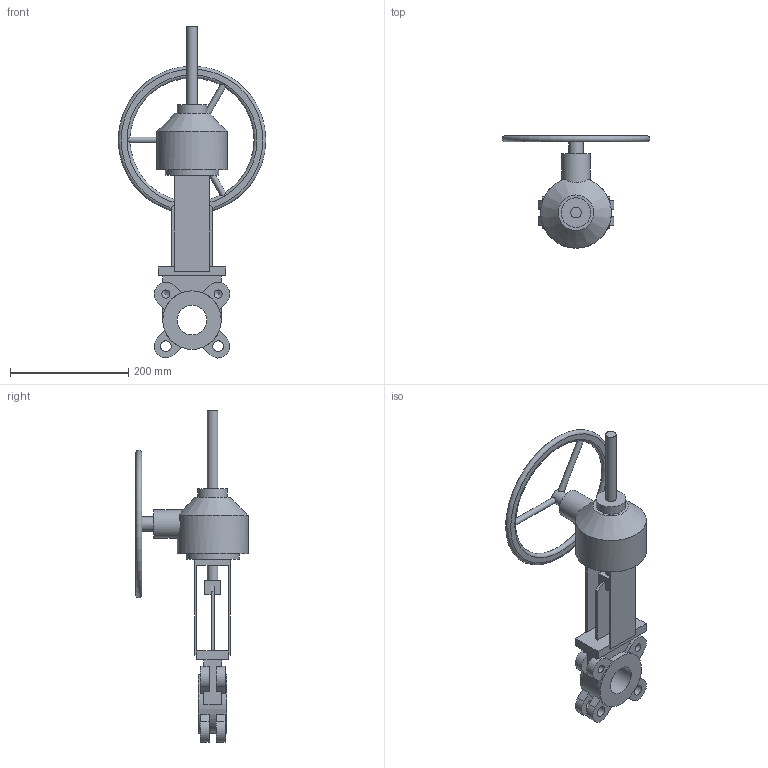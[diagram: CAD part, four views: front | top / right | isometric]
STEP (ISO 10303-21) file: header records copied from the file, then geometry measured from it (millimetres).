
FILE_DESCRIPTION(('STEP AP203'), '1');
FILE_NAME('Çàäâèæêà øèáåðíàÿ K21GV DN50 ðåäóêòîð+âûäâèæíîé øïèíäåëü', '', ('UNSPECIFIED'), ('UNSPECIFIED'), 'ASCON STEP Converter 1.6', 'ASCON Math Kernel', '');
FILE_SCHEMA(('CONFIG_CONTROL_DESIGN'));
Length unit declared in the file: millimetre
Bounding box: 250 x 190 x 562.12 mm (x, y, z)
Volume: 2022975.5 mm3; surface area: 254266.3 mm2
Topology: 1 solids, 1 shells, 118 faces, 312 edges, 201 vertices
Faces by surface type: plane 81, cylinder 28, cone 5, torus 4
Full cylindrical faces by diameter (mm): 10 x3, 13.835 x4, 18 x6, 24 x1, 48 x1, 50 x2, 90 x1, 99 x1, 120 x1
Entity records: 5863 total; most frequent: CARTESIAN_POINT 2008, DIRECTION 590, ORIENTED_EDGE 562, EDGE_CURVE 281, AXIS2_PLACEMENT_3D 205, VERTEX_POINT 197, LINE 180, VECTOR 180
